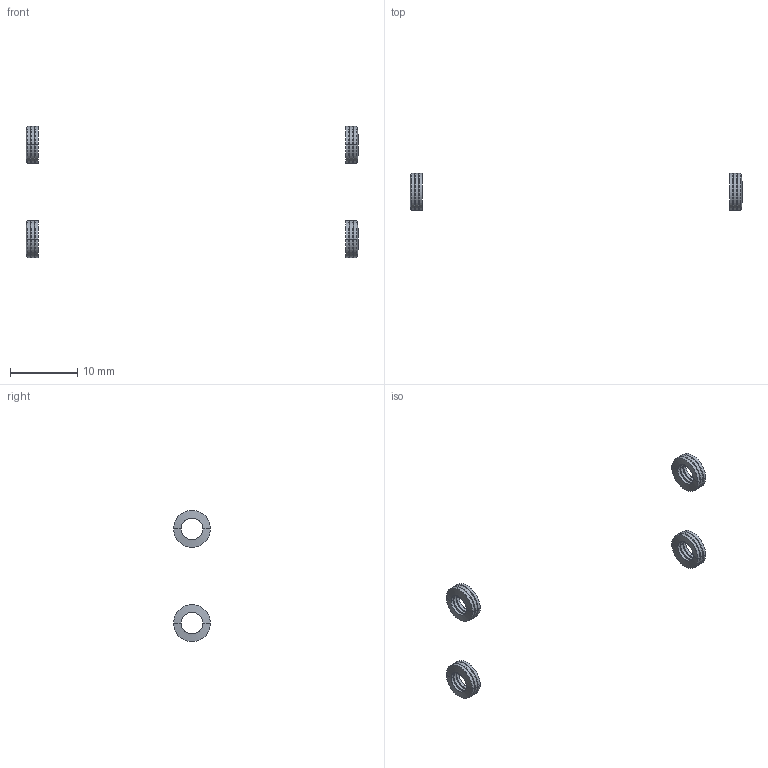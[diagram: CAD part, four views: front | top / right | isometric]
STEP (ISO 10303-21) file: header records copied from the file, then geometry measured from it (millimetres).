
FILE_DESCRIPTION(/* description */ (''),/* implementation_level */ '2;1');
FILE_NAME(/* name */ 'X-4F2F~1',/* time_stamp */ '2014-02-14T19:44:26+01:00',/* author */ (''),/* organization */ (''),/* preprocessor_version */ 'ST-DEVELOPER v14',/* originating_system */ '',/* authorisation */ '');
FILE_SCHEMA (('AUTOMOTIVE_DESIGN'));
Length unit declared in the file: millimetre
Products named in the file (2): Document; washer Schnorr-like, lock, M3
Assembly tree (6 placements, depth 2):
  Document
    washer Schnorr-like, lock, M3  x6
Bounding box: 49.4 x 5.5 x 19.52 mm (x, y, z)
Surface area: 528.2 mm2 (no closed solid volume)
Topology: 0 solids, 96 shells, 96 faces, 384 edges, 384 vertices
Faces by surface type: bspline 96
Entity records: 5031 total; most frequent: CARTESIAN_POINT 2473, B_SPLINE_CURVE_WITH_KNOTS 336, ORIENTED_EDGE 224, PCURVE 224, DEFINITIONAL_REPRESENTATION 224, SURFACE_CURVE 224, EDGE_CURVE 224, VERTEX_POINT 224
